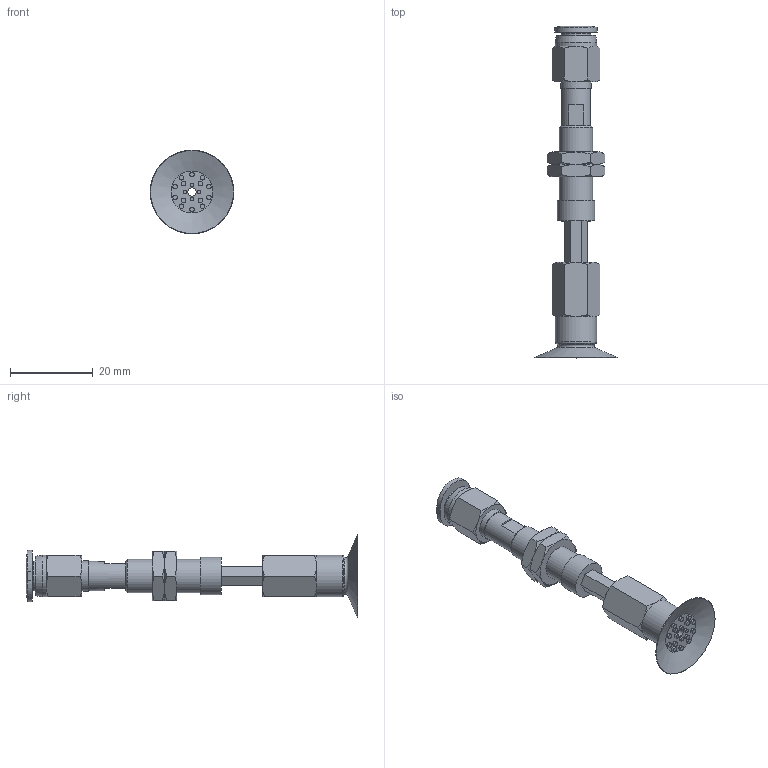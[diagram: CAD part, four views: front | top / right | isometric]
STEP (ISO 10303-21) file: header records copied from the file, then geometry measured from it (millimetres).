
FILE_DESCRIPTION(('STEP AP203'),'1');
FILE_NAME('-O.stp','2025-08-21T08:30:58',(' '),(' '),'Spatial InterOp 3D',' ',' ');
FILE_SCHEMA(('CONFIG_CONTROL_DESIGN'));
Length unit declared in the file: millimetre
Products named in the file (7): BNABPATH-20A-10-※-O; ADAPTER; NAPATH-10A-10--M; NAPATH-20A-10--F; Nut-10A-S; PC-C_06-M5; BPAG-20A-※
Assembly tree (7 placements, depth 2):
  BNABPATH-20A-10-※-O
    ADAPTER
    NAPATH-10A-10--M
    NAPATH-20A-10--F
    Nut-10A-S  x2
    PC-C_06-M5
    BPAG-20A-※
Bounding box: 20.19 x 79.98 x 20.19 mm (x, y, z)
Volume: 4630.4 mm3; surface area: 5812.5 mm2
Topology: 7 solids, 7 shells, 210 faces, 419 edges, 257 vertices
Faces by surface type: plane 88, cone 62, cylinder 41, torus 12, bspline 4, revolution 3
Full cylindrical faces by diameter (mm): 0.9 x4, 1.1 x14, 2 x3, 4 x4, 4.134 x1, 5 x1, 6 x2, 7 x2, 7.188 x2, 7.4 x1, 8 x1, 8.2 x1, 9 x1, 10 x2
Entity records: 5200 total; most frequent: CARTESIAN_POINT 1360, DIRECTION 735, ORIENTED_EDGE 594, AXIS2_PLACEMENT_3D 330, EDGE_CURVE 297, EDGE_LOOP 294, FACE_OUTER_BOUND 237, VERTEX_POINT 219
